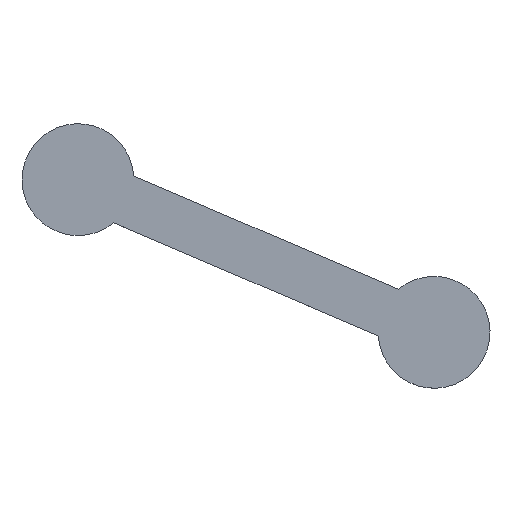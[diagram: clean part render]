
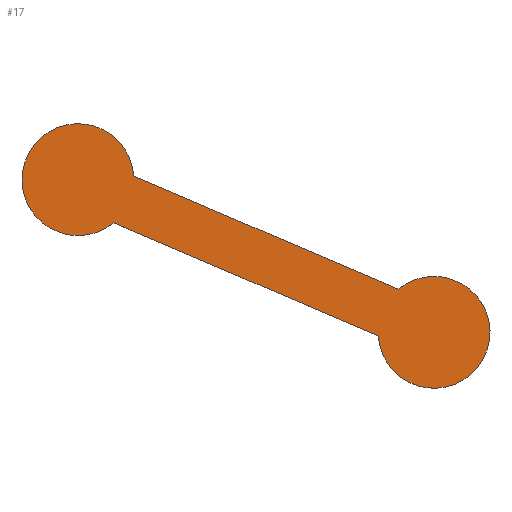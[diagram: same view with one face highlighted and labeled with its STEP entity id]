
A CAD part, top view. The second image highlights one B-rep face of the part: STEP entity #17.
In plain terms, the highlighted planar face has unit normal (0, 0, 1).
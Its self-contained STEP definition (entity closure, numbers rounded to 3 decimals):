
#17 = ADVANCED_FACE('',(#18),#32,.T.);
#18 = FACE_BOUND('',#19,.T.);
#19 = EDGE_LOOP('',(#20,#55,#84,#112));
#20 = ORIENTED_EDGE('',*,*,#21,.F.);
#21 = EDGE_CURVE('',#22,#24,#26,.T.);
#22 = VERTEX_POINT('',#23);
#23 = CARTESIAN_POINT('',(2.195,-12.853,11.2));
#24 = VERTEX_POINT('',#25);
#25 = CARTESIAN_POINT('',(12.593,-17.309,11.2));
#26 = SURFACE_CURVE('',#27,(#31,#43),.PCURVE_S1.);
#27 = LINE('',#28,#29);
#28 = CARTESIAN_POINT('',(0.394,-12.081,11.2));
#29 = VECTOR('',#30,1.);
#30 = DIRECTION('',(0.919,-0.394,0.));
#31 = PCURVE('',#32,#37);
#32 = PLANE('',#33);
#33 = AXIS2_PLACEMENT_3D('',#34,#35,#36);
#34 = CARTESIAN_POINT('',(-0.394,-13.919,11.2));
#35 = DIRECTION('',(0.,0.,1.));
#36 = DIRECTION('',(0.919,-0.394,0.));
#37 = DEFINITIONAL_REPRESENTATION('',(#38),#42);
#38 = LINE('',#39,#40);
#39 = CARTESIAN_POINT('',(0.,2.));
#40 = VECTOR('',#41,1.);
#41 = DIRECTION('',(1.,0.));
#42 = ( GEOMETRIC_REPRESENTATION_CONTEXT(2) 
PARAMETRIC_REPRESENTATION_CONTEXT() REPRESENTATION_CONTEXT('2D SPACE',''
  ) );
#43 = PCURVE('',#44,#49);
#44 = PLANE('',#45);
#45 = AXIS2_PLACEMENT_3D('',#46,#47,#48);
#46 = CARTESIAN_POINT('',(0.394,-12.081,11.05));
#47 = DIRECTION('',(0.394,0.919,0.));
#48 = DIRECTION('',(0.,0.,1.));
#49 = DEFINITIONAL_REPRESENTATION('',(#50),#54);
#50 = LINE('',#51,#52);
#51 = CARTESIAN_POINT('',(0.15,0.));
#52 = VECTOR('',#53,1.);
#53 = DIRECTION('',(0.,1.));
#54 = ( GEOMETRIC_REPRESENTATION_CONTEXT(2) 
PARAMETRIC_REPRESENTATION_CONTEXT() REPRESENTATION_CONTEXT('2D SPACE',''
  ) );
#55 = ORIENTED_EDGE('',*,*,#56,.T.);
#56 = EDGE_CURVE('',#22,#57,#59,.T.);
#57 = VERTEX_POINT('',#58);
#58 = CARTESIAN_POINT('',(1.407,-14.691,11.2));
#59 = SURFACE_CURVE('',#60,(#65,#72),.PCURVE_S1.);
#60 = CIRCLE('',#61,2.2);
#61 = AXIS2_PLACEMENT_3D('',#62,#63,#64);
#62 = CARTESIAN_POINT('',(0.,-13.,11.2));
#63 = DIRECTION('',(0.,0.,1.));
#64 = DIRECTION('',(1.,0.,0.));
#65 = PCURVE('',#32,#66);
#66 = DEFINITIONAL_REPRESENTATION('',(#67),#71);
#67 = CIRCLE('',#68,2.2);
#68 = AXIS2_PLACEMENT_2D('',#69,#70);
#69 = CARTESIAN_POINT('',(0.,1.));
#70 = DIRECTION('',(0.919,0.394));
#71 = ( GEOMETRIC_REPRESENTATION_CONTEXT(2) 
PARAMETRIC_REPRESENTATION_CONTEXT() REPRESENTATION_CONTEXT('2D SPACE',''
  ) );
#72 = PCURVE('',#73,#78);
#73 = CYLINDRICAL_SURFACE('',#74,2.2);
#74 = AXIS2_PLACEMENT_3D('',#75,#76,#77);
#75 = CARTESIAN_POINT('',(0.,-13.,11.05));
#76 = DIRECTION('',(-0.,-0.,-1.));
#77 = DIRECTION('',(1.,0.,0.));
#78 = DEFINITIONAL_REPRESENTATION('',(#79),#83);
#79 = LINE('',#80,#81);
#80 = CARTESIAN_POINT('',(-0.,-0.15));
#81 = VECTOR('',#82,1.);
#82 = DIRECTION('',(-1.,0.));
#83 = ( GEOMETRIC_REPRESENTATION_CONTEXT(2) 
PARAMETRIC_REPRESENTATION_CONTEXT() REPRESENTATION_CONTEXT('2D SPACE',''
  ) );
#84 = ORIENTED_EDGE('',*,*,#85,.T.);
#85 = EDGE_CURVE('',#57,#86,#88,.T.);
#86 = VERTEX_POINT('',#87);
#87 = CARTESIAN_POINT('',(11.805,-19.147,11.2));
#88 = SURFACE_CURVE('',#89,(#93,#100),.PCURVE_S1.);
#89 = LINE('',#90,#91);
#90 = CARTESIAN_POINT('',(-0.394,-13.919,11.2));
#91 = VECTOR('',#92,1.);
#92 = DIRECTION('',(0.919,-0.394,0.));
#93 = PCURVE('',#32,#94);
#94 = DEFINITIONAL_REPRESENTATION('',(#95),#99);
#95 = LINE('',#96,#97);
#96 = CARTESIAN_POINT('',(0.,0.));
#97 = VECTOR('',#98,1.);
#98 = DIRECTION('',(1.,0.));
#99 = ( GEOMETRIC_REPRESENTATION_CONTEXT(2) 
PARAMETRIC_REPRESENTATION_CONTEXT() REPRESENTATION_CONTEXT('2D SPACE',''
  ) );
#100 = PCURVE('',#101,#106);
#101 = PLANE('',#102);
#102 = AXIS2_PLACEMENT_3D('',#103,#104,#105);
#103 = CARTESIAN_POINT('',(-0.394,-13.919,11.05));
#104 = DIRECTION('',(0.394,0.919,0.));
#105 = DIRECTION('',(0.,0.,1.));
#106 = DEFINITIONAL_REPRESENTATION('',(#107),#111);
#107 = LINE('',#108,#109);
#108 = CARTESIAN_POINT('',(0.15,0.));
#109 = VECTOR('',#110,1.);
#110 = DIRECTION('',(0.,1.));
#111 = ( GEOMETRIC_REPRESENTATION_CONTEXT(2) 
PARAMETRIC_REPRESENTATION_CONTEXT() REPRESENTATION_CONTEXT('2D SPACE',''
  ) );
#112 = ORIENTED_EDGE('',*,*,#113,.T.);
#113 = EDGE_CURVE('',#86,#24,#114,.T.);
#114 = SURFACE_CURVE('',#115,(#120,#127),.PCURVE_S1.);
#115 = CIRCLE('',#116,2.2);
#116 = AXIS2_PLACEMENT_3D('',#117,#118,#119);
#117 = CARTESIAN_POINT('',(14.,-19.,11.2));
#118 = DIRECTION('',(0.,0.,1.));
#119 = DIRECTION('',(-0.998,-0.067,0.));
#120 = PCURVE('',#32,#121);
#121 = DEFINITIONAL_REPRESENTATION('',(#122),#126);
#122 = CIRCLE('',#123,2.2);
#123 = AXIS2_PLACEMENT_2D('',#124,#125);
#124 = CARTESIAN_POINT('',(15.232,1.));
#125 = DIRECTION('',(-0.891,-0.455));
#126 = ( GEOMETRIC_REPRESENTATION_CONTEXT(2) 
PARAMETRIC_REPRESENTATION_CONTEXT() REPRESENTATION_CONTEXT('2D SPACE',''
  ) );
#127 = PCURVE('',#128,#133);
#128 = CYLINDRICAL_SURFACE('',#129,2.2);
#129 = AXIS2_PLACEMENT_3D('',#130,#131,#132);
#130 = CARTESIAN_POINT('',(14.,-19.,11.05));
#131 = DIRECTION('',(-0.,-0.,-1.));
#132 = DIRECTION('',(1.,0.,0.));
#133 = DEFINITIONAL_REPRESENTATION('',(#134),#138);
#134 = LINE('',#135,#136);
#135 = CARTESIAN_POINT('',(-3.209,-0.15));
#136 = VECTOR('',#137,1.);
#137 = DIRECTION('',(-1.,0.));
#138 = ( GEOMETRIC_REPRESENTATION_CONTEXT(2) 
PARAMETRIC_REPRESENTATION_CONTEXT() REPRESENTATION_CONTEXT('2D SPACE',''
  ) );
